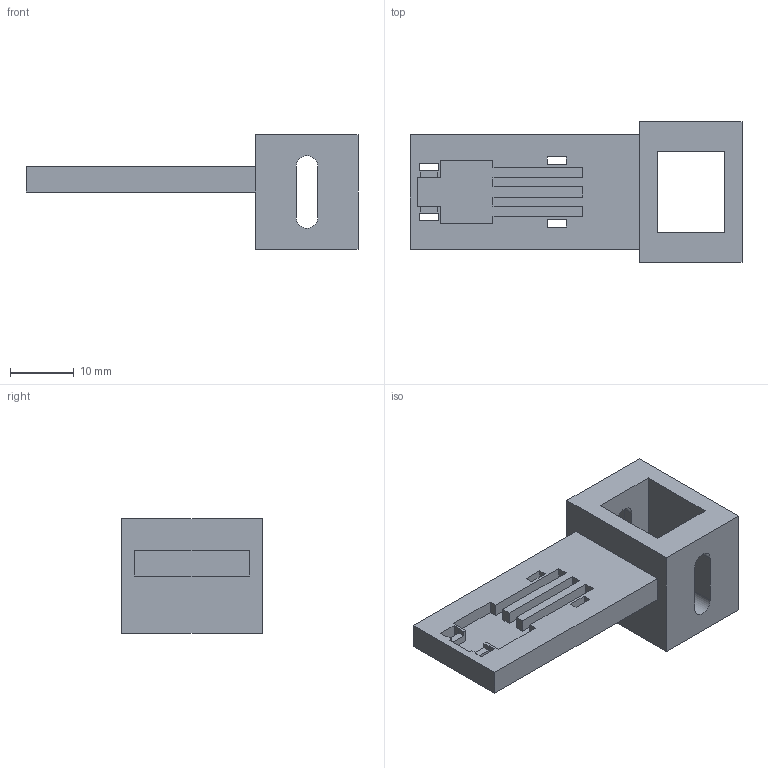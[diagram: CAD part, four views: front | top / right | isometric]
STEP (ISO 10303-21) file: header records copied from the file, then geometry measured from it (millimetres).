
FILE_DESCRIPTION(('Open CASCADE Model'),'2;1');
FILE_NAME('Open CASCADE Shape Model','2026-11-12T16:33:15',('Author'),( 'Open CASCADE'),'Open CASCADE STEP processor 7.9','Open CASCADE 7.9' ,'Unknown');
FILE_SCHEMA(('AUTOMOTIVE_DESIGN { 1 0 10303 214 1 1 1 1 }'));
Length unit declared in the file: millimetre
Products named in the file (1): Open CASCADE STEP translator 7.9 12
Bounding box: 52 x 22 x 18 mm (x, y, z)
Volume: 5634.4 mm3; surface area: 4731.4 mm2
Topology: 1 solids, 1 shells, 71 faces, 204 edges, 136 vertices
Faces by surface type: plane 67, cylinder 4
Entity records: 4976 total; most frequent: CARTESIAN_POINT 820, DIRECTION 764, LINE 596, VECTOR 596, ORIENTED_EDGE 408, PCURVE 408, DEFINITIONAL_REPRESENTATION 408, EDGE_CURVE 204
